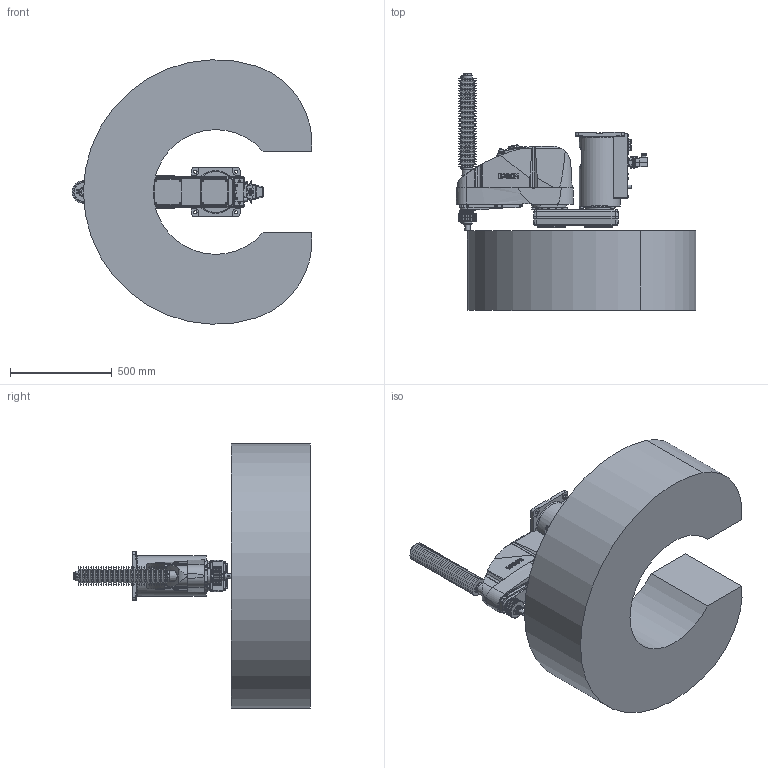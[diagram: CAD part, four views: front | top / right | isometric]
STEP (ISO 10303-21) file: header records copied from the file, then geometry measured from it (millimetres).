
FILE_DESCRIPTION( ( 'STEP AP214' ), '1' );
FILE_NAME( 'C:/Users/9607552/Desktop/GX10-B654CR_langle.stp', '2023-08-01T09:05:03', ( '' ), ( '' ), ' ', 'PARTsolutions', ' ' );
FILE_SCHEMA( ( 'AUTOMOTIVE_DESIGN { 1 0 10303 214 1 1 1 1 }' ) );
Length unit declared in the file: millimetre
Products named in the file (7): GX10-B654CRA-W; _Base cr; _Angle-B; _J1 Arm GX10-250 r/w; _J2 Arm GX10-c; _J3 Arm GX10-c (4); _GX10_20B-33_4
Assembly tree (6 placements, depth 2):
  GX10-B654CRA-W
    _Base cr
    _Angle-B
    _J1 Arm GX10-250 r/w
    _J2 Arm GX10-c
    _J3 Arm GX10-c (4)
    _GX10_20B-33_4
Bounding box: 1177.56 x 1164 x 1299.45 mm (x, y, z)
Volume: 364025373.4 mm3; surface area: 5816506.4 mm2
Topology: 6 solids, 6 shells, 2550 faces, 6238 edges, 4035 vertices
Faces by surface type: plane 1313, cylinder 734, cone 398, torus 67, bspline 37, sphere 1
Full cylindrical faces by diameter (mm): 1.18 x55, 2.5 x2, 3 x32, 3.242 x10, 3.3 x9, 4 x2, 4.2 x2, 4.8 x4, 5.1 x4, 5.34 x4, 5.5 x12, 6 x3, 6.2 x2, 6.647 x2, 7 x27, 7.5 x1, 8 x4, 8.5 x2, 9 x4, 10 x32, 10.5 x3, 11 x14, 12 x7, 12.25 x1, 13 x2, 14 x8, 14.25 x1, 16 x7, 18 x2, 20.4 x1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
Entity records: 95613 total; most frequent: CARTESIAN_POINT 17728, DIRECTION 11950, ORIENTED_EDGE 10866, EDGE_CURVE 5433, AXIS2_PLACEMENT_3D 4549, VERTEX_POINT 3932, EDGE_LOOP 3614, FACE_OUTER_BOUND 2899
